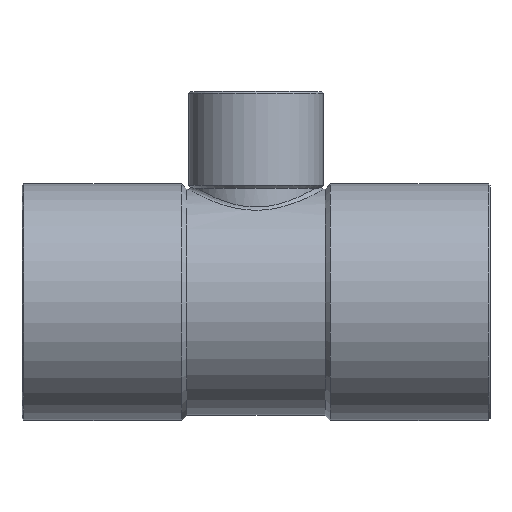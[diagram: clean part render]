
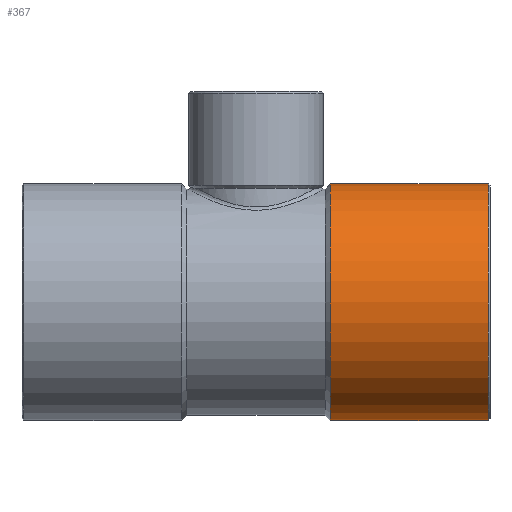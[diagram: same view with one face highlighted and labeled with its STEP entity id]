
A CAD part, top view. The second image highlights one B-rep face of the part: STEP entity #367.
In plain terms, the highlighted cylindrical face has radius 15.175 mm (diameter 30.35 mm), a partial arc.
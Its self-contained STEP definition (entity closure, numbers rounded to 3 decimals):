
#195=CARTESIAN_POINT('',(9.544,15.175,0.0));
#196=VERTEX_POINT('',#195);
#212=CARTESIAN_POINT('',(9.544,-15.175,0.));
#213=VERTEX_POINT('',#212);
#220=CARTESIAN_POINT('',(9.544,0.0,0.0));
#221=DIRECTION('',(1.0,0.0,0.0));
#222=DIRECTION('',(0.0,1.0,0.0));
#223=AXIS2_PLACEMENT_3D('',#220,#221,#222);
#224=CIRCLE('',#223,15.175);
#225=EDGE_CURVE('',#196,#213,#224,.T.);
#336=CARTESIAN_POINT('',(19.772,0.0,0.0));
#337=DIRECTION('',(1.0,0.0,0.0));
#338=DIRECTION('',(0.0,1.0,0.0));
#339=AXIS2_PLACEMENT_3D('',#336,#337,#338);
#340=CYLINDRICAL_SURFACE('',#339,15.175);
#341=CARTESIAN_POINT('',(29.8,15.175,0.));
#342=VERTEX_POINT('',#341);
#343=CARTESIAN_POINT('',(9.544,15.175,0.0));
#344=DIRECTION('',(1.0,0.0,0.0));
#345=VECTOR('',#344,20.256);
#346=LINE('',#343,#345);
#347=EDGE_CURVE('',#196,#342,#346,.T.);
#348=ORIENTED_EDGE('',*,*,#347,.F.);
#349=ORIENTED_EDGE('',*,*,#225,.T.);
#350=CARTESIAN_POINT('',(29.8,-15.175,0.));
#351=VERTEX_POINT('',#350);
#352=CARTESIAN_POINT('',(29.8,-15.175,0.));
#353=DIRECTION('',(-1.0,0.0,0.0));
#354=VECTOR('',#353,20.256);
#355=LINE('',#352,#354);
#356=EDGE_CURVE('',#351,#213,#355,.T.);
#357=ORIENTED_EDGE('',*,*,#356,.F.);
#358=CARTESIAN_POINT('',(29.8,0.0,0.0));
#359=DIRECTION('',(1.0,0.0,0.0));
#360=DIRECTION('',(0.0,-1.0,0.0));
#361=AXIS2_PLACEMENT_3D('',#358,#359,#360);
#362=CIRCLE('',#361,15.175);
#363=EDGE_CURVE('',#342,#351,#362,.T.);
#364=ORIENTED_EDGE('',*,*,#363,.F.);
#365=EDGE_LOOP('',(#348,#349,#357,#364));
#366=FACE_OUTER_BOUND('',#365,.T.);
#367=ADVANCED_FACE('',(#366),#340,.T.);
